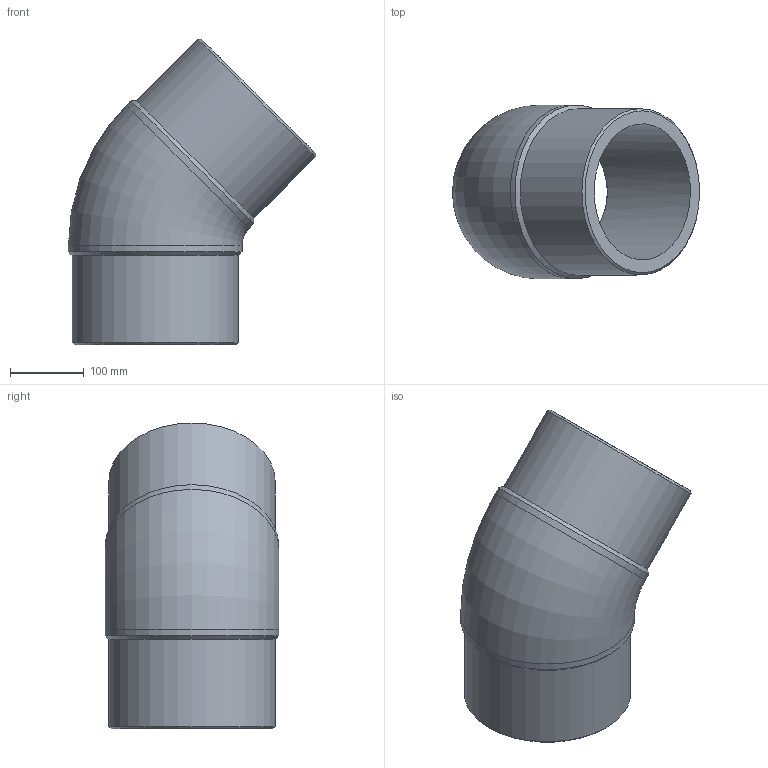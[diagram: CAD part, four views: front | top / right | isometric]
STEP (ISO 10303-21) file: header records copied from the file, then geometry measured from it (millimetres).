
FILE_DESCRIPTION(/* description */ ('Unknown'),/* implementation_level */ '2;1');
FILE_NAME(/* name */ 'G4P225C',/* time_stamp */ '2022-01-19T12:57:51+01:00',/* author */ ('Unknown'),/* organization */ ('Unknown'),/* preprocessor_version */ 'ST-DEVELOPER v18.1',/* originating_system */ 'Solid Edge',/* authorisation */ 'Unknown');
FILE_SCHEMA (('AUTOMOTIVE_DESIGN {1 0 10303 214 3 1 1}'));
Length unit declared in the file: millimetre
Products named in the file (1): G4P225C
Bounding box: 334.23 x 235 x 413.73 mm (x, y, z)
Volume: 5631043.5 mm3; surface area: 529389.9 mm2
Topology: 1 solids, 1 shells, 14 faces, 34 edges, 22 vertices
Faces by surface type: cylinder 6, cone 4, plane 2, torus 2
Full cylindrical faces by diameter (mm): 184 x2, 225 x2, 235 x2
Entity records: 368 total; most frequent: CARTESIAN_POINT 68, DIRECTION 60, ORIENTED_EDGE 38, AXIS2_PLACEMENT_3D 30, EDGE_LOOP 27, FACE_BOUND 27, EDGE_CURVE 19, VERTEX_POINT 18
